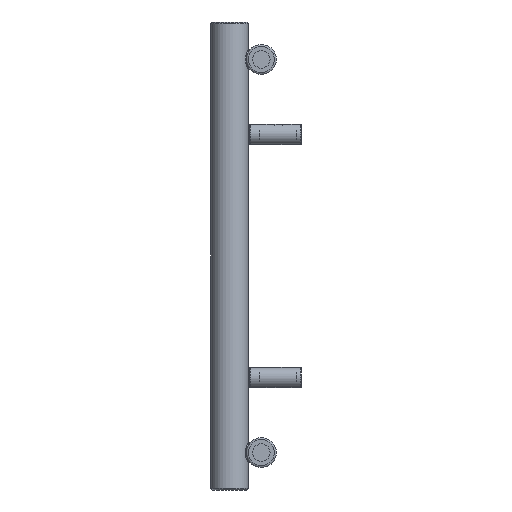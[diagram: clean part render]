
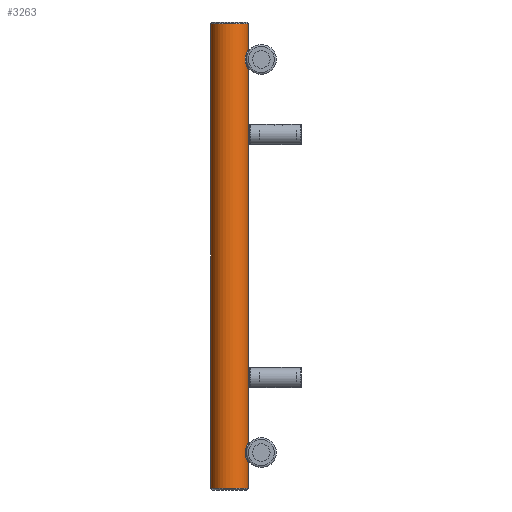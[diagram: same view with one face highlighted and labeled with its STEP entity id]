
A CAD part, left-side view. The second image highlights one B-rep face of the part: STEP entity #3263.
In plain terms, the highlighted cylindrical face has radius 20 mm (diameter 40 mm), a full revolution.
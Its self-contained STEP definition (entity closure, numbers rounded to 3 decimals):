
#248=FACE_BOUND('',#784,.T.);
#249=FACE_BOUND('',#785,.T.);
#295=LINE('',#7551,#382);
#382=VECTOR('',#4073,20.);
#469=CYLINDRICAL_SURFACE('',#3545,20.);
#524=FACE_OUTER_BOUND('',#783,.T.);
#783=EDGE_LOOP('',(#2348,#2349,#2350,#2351,#2352));
#784=EDGE_LOOP('',(#2353));
#785=EDGE_LOOP('',(#2354));
#1064=B_SPLINE_CURVE_WITH_KNOTS('',3,(#7526,#7527,#7528,#7529,#7530,#7531,
#7532,#7533,#7534,#7535,#7536,#7537,#7538,#7539,#7540,#7541,#7542,#7543,
#7544,#7545),.UNSPECIFIED.,.T.,.F.,(4,1,1,1,1,1,1,1,1,1,1,1,1,1,1,1,1,4),
(-5.132,-4.765,-4.399,-4.154,
-3.91,-3.666,-3.421,-3.177,-2.933,
-2.688,-2.199,-1.955,-1.711,-1.466,
-1.1,-0.733,-0.367,0.),
 .UNSPECIFIED.);
#1065=B_SPLINE_CURVE_WITH_KNOTS('',3,(#7555,#7556,#7557,#7558,#7559,#7560,
#7561,#7562,#7563,#7564,#7565,#7566,#7567,#7568,#7569,#7570,#7571,#7572),
 .UNSPECIFIED.,.T.,.F.,(4,1,1,1,1,1,1,1,1,1,1,1,1,1,1,4),(-5.132,
-4.765,-4.399,-3.91,-3.666,-3.421,
-3.177,-2.933,-2.444,-2.199,
-1.955,-1.466,-1.1,-0.733,
-0.367,0.),.UNSPECIFIED.);
#1151=CIRCLE('',#3546,20.);
#1152=CIRCLE('',#3547,20.);
#1153=CIRCLE('',#3548,20.);
#1463=VERTEX_POINT('',#7524);
#1464=VERTEX_POINT('',#7547);
#1465=VERTEX_POINT('',#7548);
#1466=VERTEX_POINT('',#7550);
#1467=VERTEX_POINT('',#7554);
#1815=EDGE_CURVE('',#1463,#1463,#1064,.T.);
#1816=EDGE_CURVE('',#1464,#1465,#1151,.T.);
#1817=EDGE_CURVE('',#1464,#1466,#295,.T.);
#1818=EDGE_CURVE('',#1466,#1466,#1152,.T.);
#1819=EDGE_CURVE('',#1465,#1464,#1153,.T.);
#1820=EDGE_CURVE('',#1467,#1467,#1065,.T.);
#2348=ORIENTED_EDGE('',*,*,#1816,.F.);
#2349=ORIENTED_EDGE('',*,*,#1817,.T.);
#2350=ORIENTED_EDGE('',*,*,#1818,.F.);
#2351=ORIENTED_EDGE('',*,*,#1817,.F.);
#2352=ORIENTED_EDGE('',*,*,#1819,.F.);
#2353=ORIENTED_EDGE('',*,*,#1820,.F.);
#2354=ORIENTED_EDGE('',*,*,#1815,.F.);
#3263=ADVANCED_FACE('',(#524,#248,#249),#469,.T.);
#3545=AXIS2_PLACEMENT_3D('',#7546,#4069,#4070);
#3546=AXIS2_PLACEMENT_3D('',#7549,#4071,#4072);
#3547=AXIS2_PLACEMENT_3D('',#7552,#4074,#4075);
#3548=AXIS2_PLACEMENT_3D('',#7553,#4076,#4077);
#4069=DIRECTION('center_axis',(0.,0.,1.));
#4070=DIRECTION('ref_axis',(-1.,0.,0.));
#4071=DIRECTION('center_axis',(0.,0.,1.));
#4072=DIRECTION('ref_axis',(-1.,0.,0.));
#4073=DIRECTION('',(0.,0.,-1.));
#4074=DIRECTION('center_axis',(0.,0.,-1.));
#4075=DIRECTION('ref_axis',(-1.,0.,0.));
#4076=DIRECTION('center_axis',(0.,0.,1.));
#4077=DIRECTION('ref_axis',(-1.,0.,0.));
#7524=CARTESIAN_POINT('',(-825.,-20.,50.1));
#7526=CARTESIAN_POINT('Ctrl Pts',(-825.,-20.,50.1));
#7527=CARTESIAN_POINT('Ctrl Pts',(-826.611,-20.,50.1));
#7528=CARTESIAN_POINT('Ctrl Pts',(-829.838,-19.597,49.588));
#7529=CARTESIAN_POINT('Ctrl Pts',(-833.411,-18.224,47.307));
#7530=CARTESIAN_POINT('Ctrl Pts',(-835.38,-17.113,44.116));
#7531=CARTESIAN_POINT('Ctrl Pts',(-836.115,-16.626,40.852));
#7532=CARTESIAN_POINT('Ctrl Pts',(-835.87,-16.793,37.475));
#7533=CARTESIAN_POINT('Ctrl Pts',(-834.649,-17.552,34.429));
#7534=CARTESIAN_POINT('Ctrl Pts',(-832.534,-18.591,32.082));
#7535=CARTESIAN_POINT('Ctrl Pts',(-829.761,-19.504,30.58));
#7536=CARTESIAN_POINT('Ctrl Pts',(-825.581,-20.198,29.637));
#7537=CARTESIAN_POINT('Ctrl Pts',(-821.166,-19.825,30.09));
#7538=CARTESIAN_POINT('Ctrl Pts',(-817.467,-18.591,32.082));
#7539=CARTESIAN_POINT('Ctrl Pts',(-815.352,-17.558,34.43));
#7540=CARTESIAN_POINT('Ctrl Pts',(-813.928,-16.665,37.98));
#7541=CARTESIAN_POINT('Ctrl Pts',(-813.923,-16.66,42.599));
#7542=CARTESIAN_POINT('Ctrl Pts',(-816.135,-18.048,47.03));
#7543=CARTESIAN_POINT('Ctrl Pts',(-820.165,-19.6,49.585));
#7544=CARTESIAN_POINT('Ctrl Pts',(-823.389,-20.,50.1));
#7545=CARTESIAN_POINT('Ctrl Pts',(-825.,-20.,50.1));
#7546=CARTESIAN_POINT('Origin',(-825.,0.,0.));
#7547=CARTESIAN_POINT('',(-805.,0.,498.));
#7548=CARTESIAN_POINT('',(-845.,0.,498.));
#7549=CARTESIAN_POINT('Origin',(-825.,0.,498.));
#7550=CARTESIAN_POINT('',(-805.,0.,2.));
#7551=CARTESIAN_POINT('',(-805.,0.,0.));
#7552=CARTESIAN_POINT('Origin',(-825.,0.,2.));
#7553=CARTESIAN_POINT('Origin',(-825.,0.,498.));
#7554=CARTESIAN_POINT('',(-825.,-20.,470.1));
#7555=CARTESIAN_POINT('Ctrl Pts',(-825.,-20.,470.1));
#7556=CARTESIAN_POINT('Ctrl Pts',(-826.611,-20.,470.1));
#7557=CARTESIAN_POINT('Ctrl Pts',(-829.83,-19.611,469.58));
#7558=CARTESIAN_POINT('Ctrl Pts',(-834.319,-17.859,466.751));
#7559=CARTESIAN_POINT('Ctrl Pts',(-836.21,-16.549,461.99));
#7560=CARTESIAN_POINT('Ctrl Pts',(-835.866,-16.8,457.471));
#7561=CARTESIAN_POINT('Ctrl Pts',(-834.651,-17.553,454.431));
#7562=CARTESIAN_POINT('Ctrl Pts',(-832.534,-18.59,452.081));
#7563=CARTESIAN_POINT('Ctrl Pts',(-828.838,-19.82,450.089));
#7564=CARTESIAN_POINT('Ctrl Pts',(-824.416,-20.202,449.636));
#7565=CARTESIAN_POINT('Ctrl Pts',(-820.244,-19.505,450.585));
#7566=CARTESIAN_POINT('Ctrl Pts',(-816.526,-18.282,452.562));
#7567=CARTESIAN_POINT('Ctrl Pts',(-813.913,-16.657,456.802));
#7568=CARTESIAN_POINT('Ctrl Pts',(-813.931,-16.662,462.609));
#7569=CARTESIAN_POINT('Ctrl Pts',(-816.132,-18.046,467.026));
#7570=CARTESIAN_POINT('Ctrl Pts',(-820.167,-19.601,469.588));
#7571=CARTESIAN_POINT('Ctrl Pts',(-823.389,-20.,470.1));
#7572=CARTESIAN_POINT('Ctrl Pts',(-825.,-20.,470.1));
